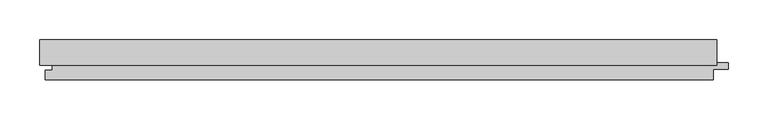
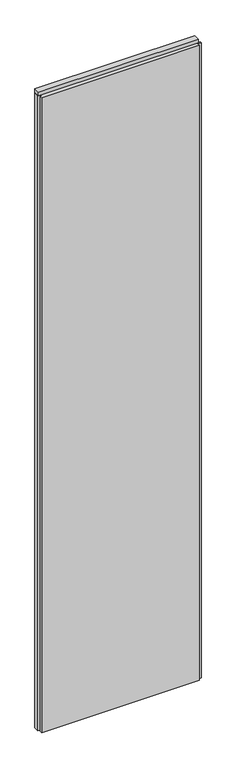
"""IFC4 building model written with IfcOpenShell, lengths in millimetres: plate geometry, Trimo_Qbiss Screen_Normal Panel-VERTICAL : HR - FB-F."""

from ifc_helpers import new_model, si_unit, frame, origin, place, context, project, spatial, polyline, outline, extrude, source, transform, mapped, element, save


def plate_6d2e9c15(model_context):
    return source(origin(), model_context, "Body", "SweptSolid", [
        extrude(outline(polyline([(-425.0, 93.9), (-425.0, 126.0), (425.0, 126.0), (425.0, 93.9), (-425.0, 93.9)])), frame((0.0, 0.0, 3590.5), z_axis=(0.0, 0.0, 1.0), x_axis=(1.0, 0.0, 0.0)), (0.0, 0.0, 1.0), 19.0),
        extrude(outline(polyline([(421.0, 97.0), (439.5, 97.0), (439.5, 89.0), (421.0, 89.0), (421.0, 76.0), (-418.0, 76.0), (-418.0, 88.0), (-409.5, 88.0), (-409.5, 98.0), (-425.0, 98.0), (-425.0, 126.0), (421.0, 126.0), (421.0, 97.0)])), frame((0.0, 0.0, 12.5), z_axis=(0.0, 0.0, 1.0), x_axis=(1.0, 0.0, 0.0)), (0.0, 0.0, 1.0), 3575.0),
    ])


if __name__ == "__main__":
    model = new_model("IFC4")
    model_context = context("Model", 3, world=origin())
    ifc_project = project(units=[si_unit("LENGTHUNIT", "METRE", prefix="MILLI")], contexts=[model_context])
    site = spatial("IfcSite", under=ifc_project)
    building = spatial("IfcBuilding", under=site)
    placement = place(None, origin())
    plate_shape = plate_6d2e9c15(model_context)
    element("IfcPlate", 1, ObjectType="Trimo_Qbiss Screen_Normal Panel-VERTICAL : HR - FB-F", at=placement, inside=building, context=model_context, shape_type="MappedRepresentation", body=[
        mapped(plate_shape, transform((0.0, 0.0, 0.0), x_axis=(1.0, 0.0, 0.0), y_axis=(0.0, 1.0, 0.0), z_axis=(0.0, 0.0, 1.0))),
    ])
    save(model, "model.ifc")
